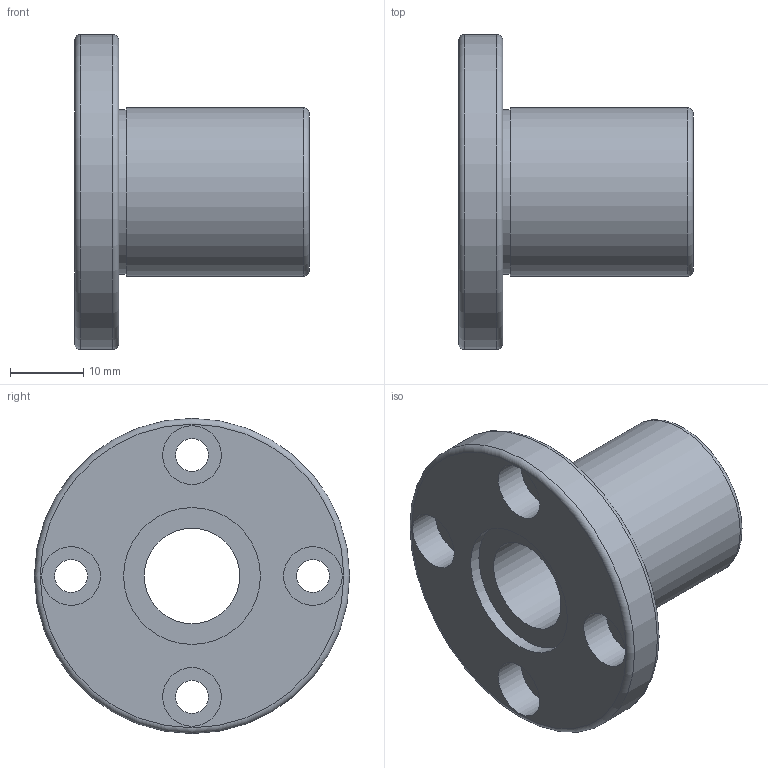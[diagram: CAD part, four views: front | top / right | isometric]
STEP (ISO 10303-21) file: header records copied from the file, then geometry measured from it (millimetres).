
FILE_DESCRIPTION( ( 'Unknown' ), '1' );
FILE_NAME( 'D:/累诀/己绕皋墨飘肺葱胶/11-04-06_档搁累己/01_府聪绢何教/LMF/LMF 13.stp', 'Unknown', ( 'Unknown' ), ( 'Unknown' ), 'PSStep 11.0', 'Unknown', ' ' );
FILE_SCHEMA( ( 'AUTOMOTIVE_DESIGN { 1 0 10303 214 1 1 1 1 }' ) );
Length unit declared in the file: millimetre
Products named in the file (1): 1
Bounding box: 32 x 43 x 43 mm (x, y, z)
Volume: 13763.3 mm3; surface area: 7020 mm2
Topology: 1 solids, 1 shells, 27 faces, 52 edges, 35 vertices
Faces by surface type: cylinder 14, plane 10, torus 3
Full cylindrical faces by diameter (mm): 4.5 x4, 8 x4, 13 x1, 18.66 x2, 22.4 x1, 23 x1, 43 x1
Entity records: 836 total; most frequent: DIRECTION 118, CARTESIAN_POINT 90, EDGE_LOOP 62, ORIENTED_EDGE 62, AXIS2_PLACEMENT_3D 59, FACE_OUTER_BOUND 44, EDGE_CURVE 31, VERTEX_POINT 31
